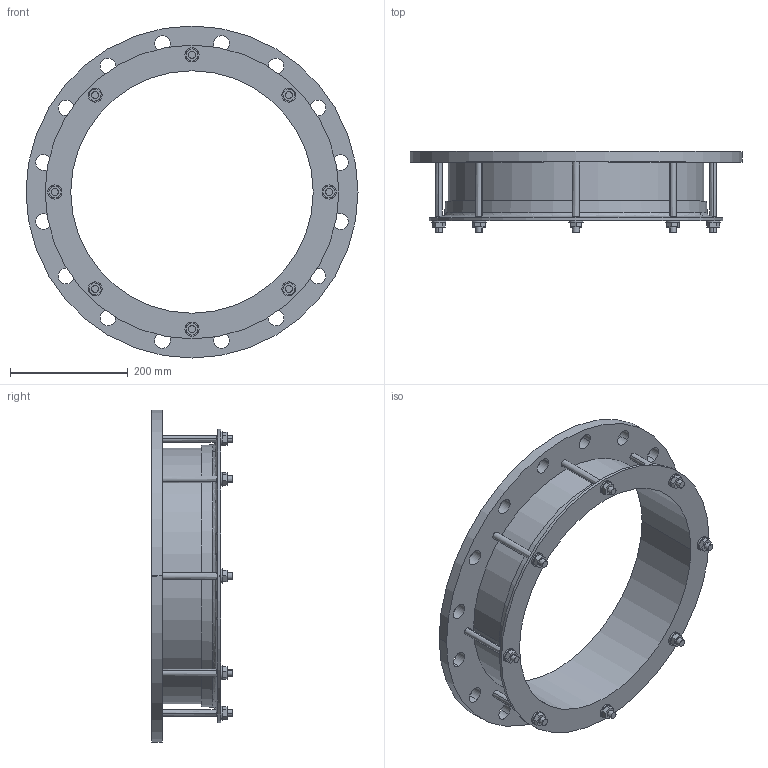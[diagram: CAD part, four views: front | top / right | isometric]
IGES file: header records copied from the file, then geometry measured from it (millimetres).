
Start section:  PTC IGES file: 409x400pn10.igs
Global section: file name: 409x400pn10.igs; native system: Creo Parametric by PTC Inc.; preprocessor: 2016130; author: mfairey; organization: Unknown; date: 20190116.102048; units: millimetre
Bounding box: 565 x 137.45 x 565 mm (x, y, z)
Surface area: 683710.3 mm2 (no closed solid volume)
Topology: 0 solids, 0 shells, 170 faces, 892 edges, 892 vertices
Faces by surface type: revolution 94, bspline 76
